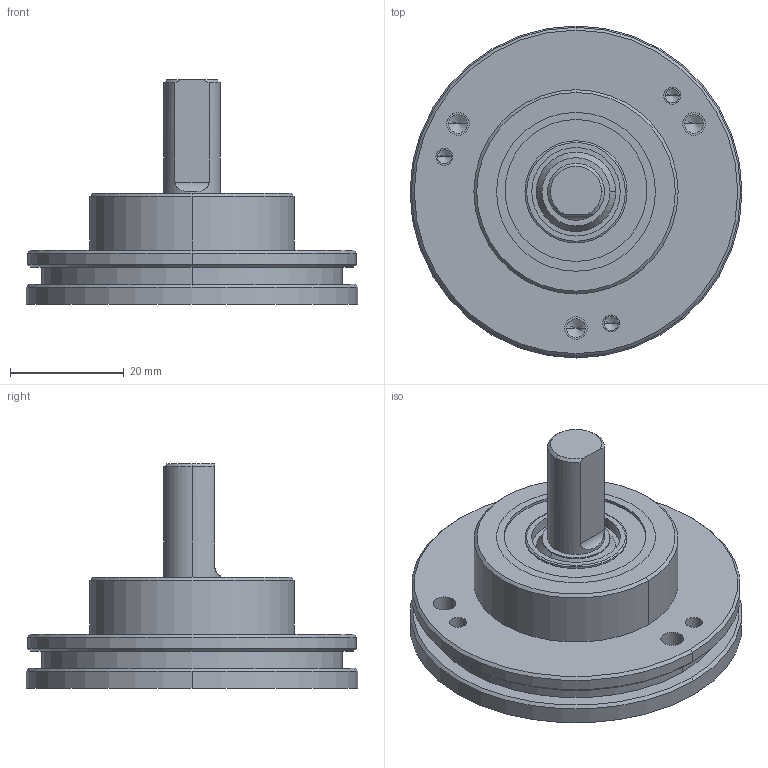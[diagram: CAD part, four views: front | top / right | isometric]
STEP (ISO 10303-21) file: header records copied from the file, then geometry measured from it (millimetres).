
FILE_DESCRIPTION (( 'STEP AP203' ), '1' );
FILE_NAME ('MCD-L10S-Q5B-N.STEP', '2013-10-24T12:45:48', ( 'Admin' ), ( 'Microsoft' ), 'SwSTEP 2.0', 'SolidWorks 2006104', '' );
FILE_SCHEMA (( 'CONFIG_CONTROL_DESIGN' ));
Length unit declared in the file: millimetre
Products named in the file (1): MCD-L10S-Q5B-N
Bounding box: 58.5 x 58.5 x 39.5 mm (x, y, z)
Volume: 31205.1 mm3; surface area: 19152.5 mm2
Topology: 16 solids, 17 shells, 416 faces, 1000 edges, 634 vertices
Faces by surface type: plane 141, cylinder 87, bspline 87, cone 49, torus 36, sphere 16
Entity records: 19498 total; most frequent: CARTESIAN_POINT 10373, ORIENTED_EDGE 1896, DIRECTION 1725, EDGE_CURVE 948, AXIS2_PLACEMENT_3D 624, VERTEX_POINT 610, VECTOR 477, LINE 477
